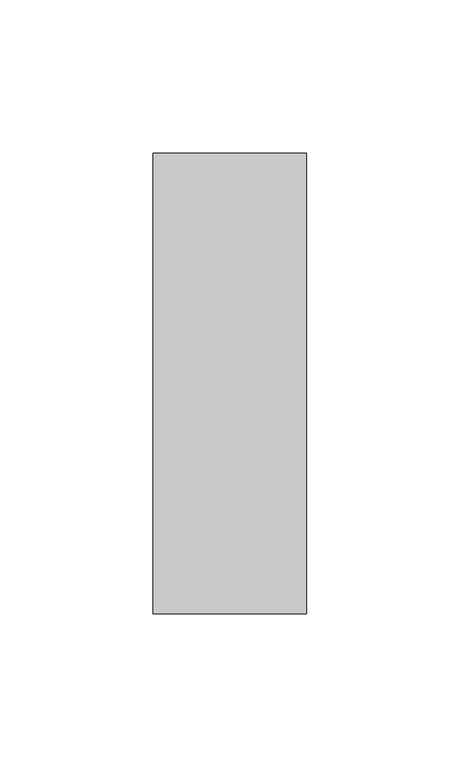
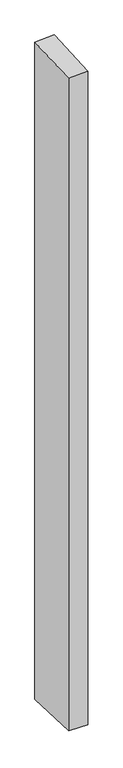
"""IFC4 building model written with IfcOpenShell, lengths in millimetres: member geometry, Прямоугольный импост : 50 x 150 мм."""

from ifc_helpers import new_model, si_unit, origin, place, context, project, spatial, faceted_brep, source, transform, mapped, element, save


def member_61eefe74(model_context):
    return source(origin(), model_context, "Body", "Brep", [
        faceted_brep([(-25.0, 75.0, 2.9395357), (25.0, 75.0, 4.8274339), (25.0, 75.0, -1786.7102484), (-25.0, 75.0, -1785.2151538), (-25.0, -75.0, -4.8274339), (-25.0, -75.0, -1780.6235151), (25.0, -75.0, -2.9395357), (25.0, -75.0, -1782.1186097)], [[[0, 1, 2, 3]], [[4, 0, 3, 5]], [[6, 4, 5, 7]], [[1, 6, 7, 2]], [[1, 0, 4, 6]], [[2, 7, 5, 3]]]),
    ])


if __name__ == "__main__":
    model = new_model("IFC4")
    model_context = context("Model", 3, world=origin())
    ifc_project = project(units=[si_unit("LENGTHUNIT", "METRE", prefix="MILLI")], contexts=[model_context])
    site = spatial("IfcSite", under=ifc_project)
    building = spatial("IfcBuilding", under=site)
    placement = place(None, origin())
    member_shape = member_61eefe74(model_context)
    element("IfcMember", 1, ObjectType="Прямоугольный импост : 50 x 150 мм", at=placement, inside=building, context=model_context, shape_type="MappedRepresentation", body=[
        mapped(member_shape, transform((0.0, 0.0, 0.0), x_axis=(1.0, 0.0, 0.0), y_axis=(0.0, 1.0, 0.0), z_axis=(0.0, 0.0, 1.0))),
    ])
    save(model, "model.ifc")
